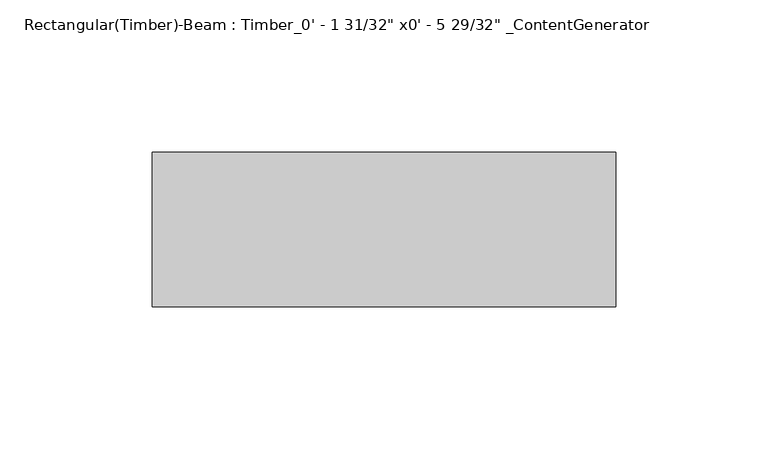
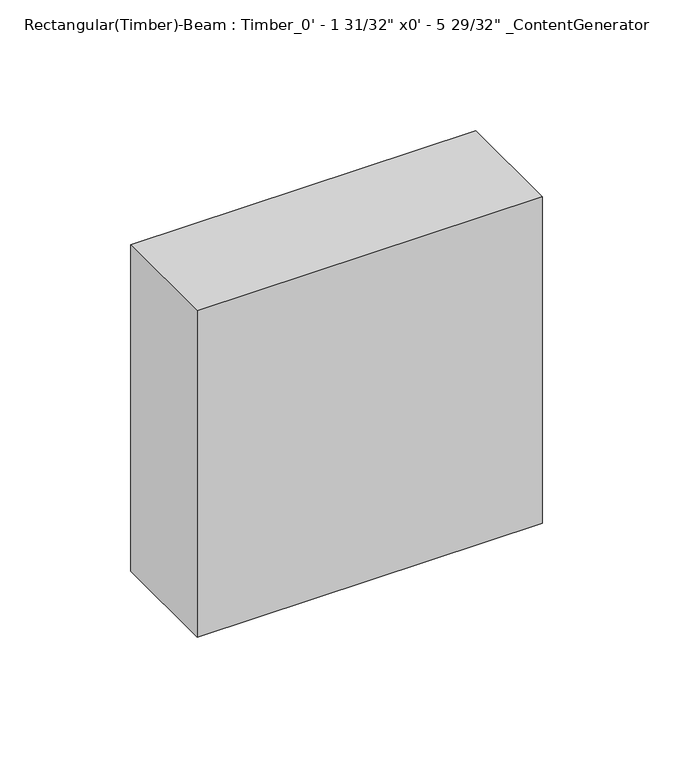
"""IFC4 building model written with IfcOpenShell, lengths in millimetres: beam geometry."""

from ifc_helpers import new_model, si_unit, frame, origin, place, context, project, spatial, polyline, outline, extrude, source, transform, mapped, element, save


def beam_072c08c6(model_context):
    return source(origin(), model_context, "Body", "SweptSolid", [
        extrude(outline(polyline([(63.495, 25.4), (63.495, -25.4), (-88.8949994, -25.4), (-88.8949994, 25.4), (63.495, 25.4)])), frame((0.0, 0.0, -76.2), z_axis=(0.0, 0.0, 1.0), x_axis=(1.0, 0.0, 0.0)), (0.0, 0.0, 1.0), 152.4),
    ])


if __name__ == "__main__":
    model = new_model("IFC4")
    model_context = context("Model", 3, world=origin())
    ifc_project = project(units=[si_unit("LENGTHUNIT", "METRE", prefix="MILLI")], contexts=[model_context])
    site = spatial("IfcSite", under=ifc_project)
    building = spatial("IfcBuilding", under=site)
    placement = place(None, origin())
    beam_shape = beam_072c08c6(model_context)
    element("IfcBeam", 1, ObjectType="Rectangular(Timber)-Beam : Timber_0' - 1 31/32\" x0' - 5 29/32\" _ContentGenerator", at=placement, inside=building, context=model_context, shape_type="MappedRepresentation", body=[
        mapped(beam_shape, transform((0.0, 0.0, 0.0), x_axis=(1.0, 0.0, 0.0), y_axis=(0.0, 1.0, 0.0), z_axis=(0.0, 0.0, 1.0))),
    ])
    save(model, "model.ifc")
